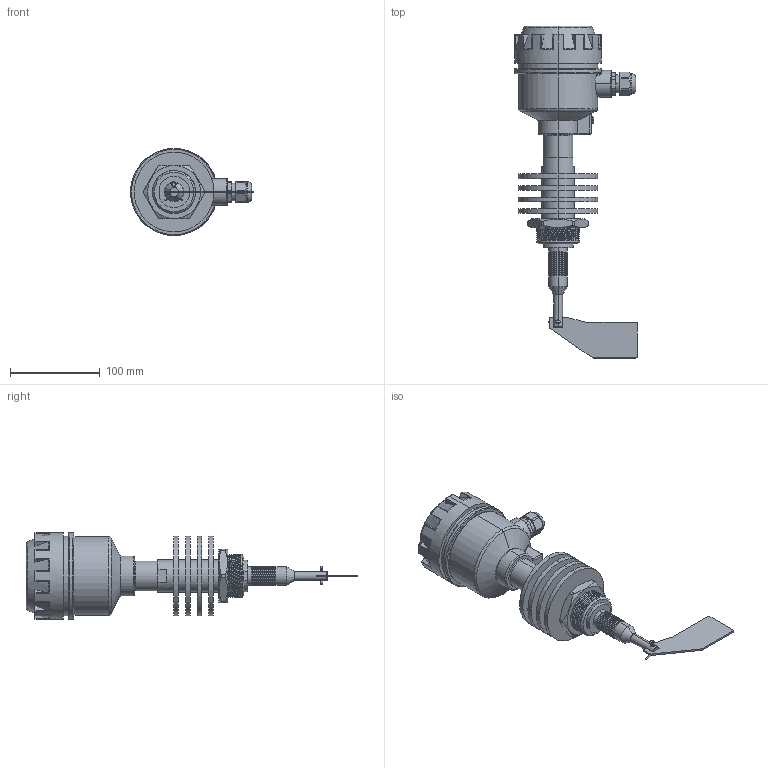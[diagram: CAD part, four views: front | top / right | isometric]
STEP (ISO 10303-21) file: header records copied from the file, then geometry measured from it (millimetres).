
FILE_DESCRIPTION (( 'STEP AP214' ), '1' );
FILE_NAME ('IL-SAA-N-HT ìóôòîâàÿ ëîïàñòü - ð.STEP', '2020-12-25T11:41:51', ( '' ), ( '' ), 'SwSTEP 2.0', 'SolidWorks 2020', '' );
FILE_SCHEMA (( 'AUTOMOTIVE_DESIGN' ));
Length unit declared in the file: millimetre
Products named in the file (9): Øïèëüêà; Ãîôðà; 幄鼭歑; IL-SAA-N-HT ìóôòîâàÿ ëîïàñòü - ð; 扻豵鵨 瞂贂-h; Êðûøêà; Ëîïàñòü; Êîðïóñ íèç; 扻錝僝鍧
Assembly tree (8 placements, depth 2):
  IL-SAA-N-HT ìóôòîâàÿ ëîïàñòü - ð
    扻豵鵨 瞂贂-h
    Êîðïóñ íèç
    Ãîôðà
    Êðûøêà
    扻錝僝鍧
    幄鼭歑
    Ëîïàñòü
    Øïèëüêà
Bounding box: 137 x 370.2 x 97 mm (x, y, z)
Volume: 785295.9 mm3; surface area: 161025 mm2
Topology: 8 solids, 8 shells, 605 faces, 1407 edges, 843 vertices
Faces by surface type: cylinder 246, plane 153, torus 126, sphere 34, cone 23, bspline 23
Entity records: 25523 total; most frequent: CARTESIAN_POINT 11484, DIRECTION 3075, ORIENTED_EDGE 2766, EDGE_CURVE 1383, AXIS2_PLACEMENT_3D 1320, VERTEX_POINT 835, CIRCLE 727, EDGE_LOOP 654
